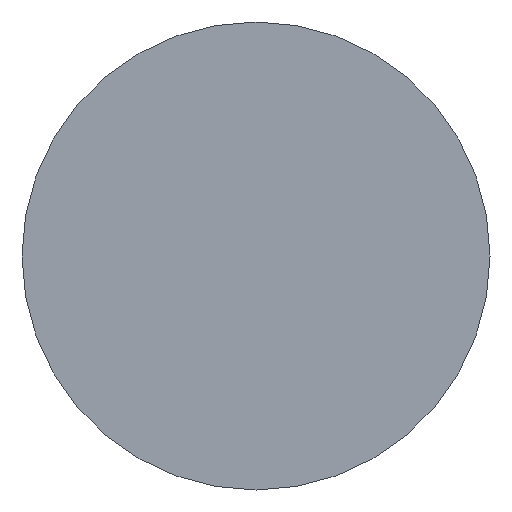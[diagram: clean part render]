
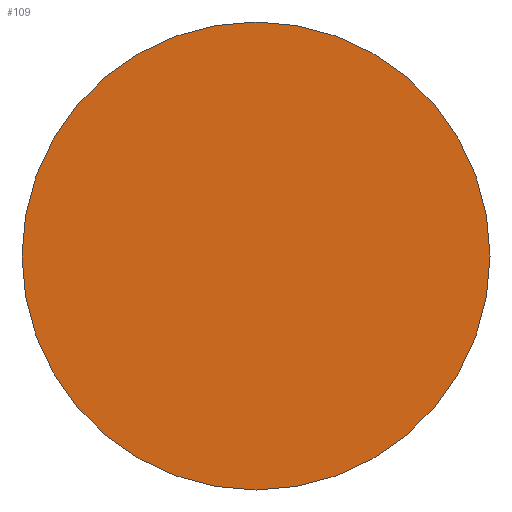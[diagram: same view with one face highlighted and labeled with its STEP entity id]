
A CAD part, front view. The second image highlights one B-rep face of the part: STEP entity #109.
In plain terms, the highlighted planar face has unit normal (0, -1, 0).
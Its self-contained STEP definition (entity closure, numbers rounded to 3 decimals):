
#24 = VERTEX_POINT('',#25);
#25 = CARTESIAN_POINT('',(687.5,-20.,0.));
#32 = CYLINDRICAL_SURFACE('',#33,2.5);
#33 = AXIS2_PLACEMENT_3D('',#34,#35,#36);
#34 = CARTESIAN_POINT('',(685.,20.,0.));
#35 = DIRECTION('',(-0.,1.,-0.));
#36 = DIRECTION('',(1.,0.,0.));
#51 = EDGE_CURVE('',#24,#24,#52,.T.);
#52 = SURFACE_CURVE('',#53,(#58,#65),.PCURVE_S1.);
#53 = CIRCLE('',#54,2.5);
#54 = AXIS2_PLACEMENT_3D('',#55,#56,#57);
#55 = CARTESIAN_POINT('',(685.,-20.,0.));
#56 = DIRECTION('',(0.,-1.,0.));
#57 = DIRECTION('',(1.,0.,0.));
#58 = PCURVE('',#32,#59);
#59 = DEFINITIONAL_REPRESENTATION('',(#60),#64);
#60 = LINE('',#61,#62);
#61 = CARTESIAN_POINT('',(-0.,-40.));
#62 = VECTOR('',#63,1.);
#63 = DIRECTION('',(-1.,0.));
#64 = ( GEOMETRIC_REPRESENTATION_CONTEXT(2) 
PARAMETRIC_REPRESENTATION_CONTEXT() REPRESENTATION_CONTEXT('2D SPACE',''
  ) );
#65 = PCURVE('',#66,#71);
#66 = PLANE('',#67);
#67 = AXIS2_PLACEMENT_3D('',#68,#69,#70);
#68 = CARTESIAN_POINT('',(685.,-20.,0.));
#69 = DIRECTION('',(-0.,-1.,-0.));
#70 = DIRECTION('',(0.,0.,-1.));
#71 = DEFINITIONAL_REPRESENTATION('',(#72),#76);
#72 = CIRCLE('',#73,2.5);
#73 = AXIS2_PLACEMENT_2D('',#74,#75);
#74 = CARTESIAN_POINT('',(0.,0.));
#75 = DIRECTION('',(0.,1.));
#76 = ( GEOMETRIC_REPRESENTATION_CONTEXT(2) 
PARAMETRIC_REPRESENTATION_CONTEXT() REPRESENTATION_CONTEXT('2D SPACE',''
  ) );
#109 = ADVANCED_FACE('',(#110),#66,.T.);
#110 = FACE_BOUND('',#111,.T.);
#111 = EDGE_LOOP('',(#112));
#112 = ORIENTED_EDGE('',*,*,#51,.T.);
